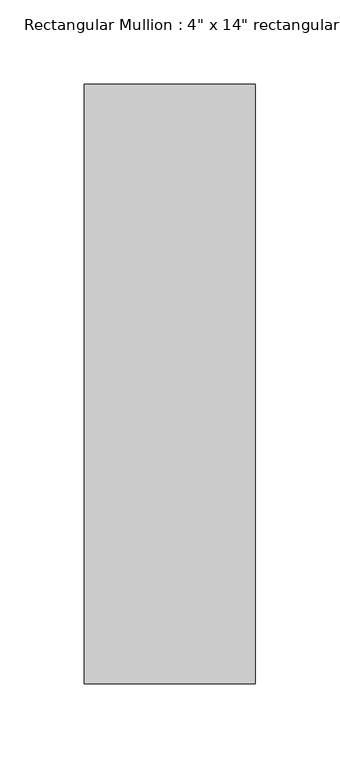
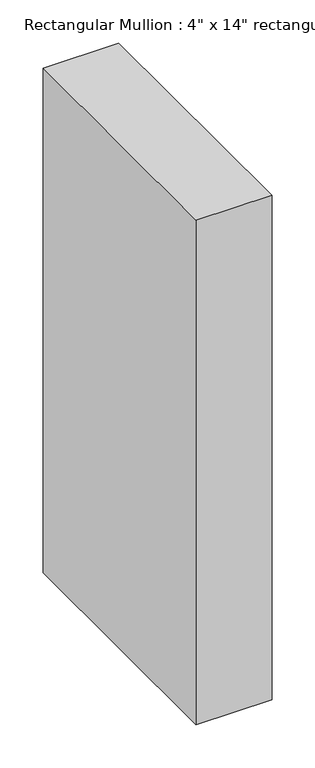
"""IFC4 building model written with IfcOpenShell, lengths in millimetres: member geometry."""

import ifcopenshell
import ifcopenshell.guid

model = None  # the IFC model being written
_history = None  # IfcOwnerHistory: only IFC2X3 demands one
_inside = {}  # id of a spatial element -> (the spatial element, [elements in it])
_under = {}  # id of a project, library or spatial element -> (it, [spatial elements below it])
_declared = {}  # id of a project -> (the project, [libraries it declares])
_typed = {}  # id of a type object -> (the type object, [elements of that type])
_made_of = {}  # id of a material, layer set ... -> (it, [elements and type objects made of it])


def new_model(schema):
    """Start an empty IFC model of exactly this schema.

    Asked for "IFC4X3", IfcOpenShell would pick the latest addendum, in which some entities
    have other attributes; the version numbers below select the first issue.
    IFC2X3 requires an IfcOwnerHistory on every rooted entity: one is made here for all.
    """
    global model, _history
    if schema == "IFC4X3":
        model = ifcopenshell.file(schema_version=(4, 3, 0, 0))
    else:
        model = ifcopenshell.file(schema=schema)
    _inside.clear()
    _under.clear()
    _declared.clear()
    _typed.clear()
    _made_of.clear()
    _history = None
    if model.schema == "IFC2X3":
        org = make("IfcOrganization", Name="unknown")
        user = make(
            "IfcPersonAndOrganization",
            ThePerson=make("IfcPerson", FamilyName="unknown"),
            TheOrganization=org,
        )
        app = make(
            "IfcApplication",
            ApplicationDeveloper=org,
            Version="unknown",
            ApplicationFullName="unknown",
            ApplicationIdentifier="unknown",
        )
        _history = make(
            "IfcOwnerHistory",
            OwningUser=user,
            OwningApplication=app,
            ChangeAction="ADDED",
            CreationDate=0,
        )
    return model


def make(cls, **values):
    """One entity of the class cls with the attributes given. An attribute that is None is left unset."""
    return model.create_entity(
        cls, **{name: value for name, value in values.items() if value is not None}
    )


def rooted(cls, **values):
    """An entity with a GlobalId (a new one), such as an element, a storey or a relation."""
    return make(cls, GlobalId=ifcopenshell.guid.new(), OwnerHistory=_history, **values)


def si_unit(unit_type, name, prefix=None):
    """IfcSIUnit, for example si_unit("LENGTHUNIT", "METRE", prefix="MILLI")."""
    return make("IfcSIUnit", UnitType=unit_type, Prefix=prefix, Name=name)


def assignment(units):
    """IfcUnitAssignment: the units of a project."""
    return None if units is None else make("IfcUnitAssignment", Units=units)


def point(xyz):
    """IfcCartesianPoint."""
    return None if xyz is None else make("IfcCartesianPoint", Coordinates=xyz)


def direction(xyz):
    """IfcDirection."""
    return None if xyz is None else make("IfcDirection", DirectionRatios=xyz)


def frame(location, z_axis=None, x_axis=None):
    """IfcAxis2Placement3D, a coordinate frame: its origin and axes. An axis left out is left unset."""
    return make(
        "IfcAxis2Placement3D",
        Location=point(location),
        Axis=direction(z_axis),
        RefDirection=direction(x_axis),
    )


def origin():
    """The frame at (0, 0, 0) with its axes left unset."""
    return frame((0.0, 0.0, 0.0))


def place(relative_to, where):
    """IfcLocalPlacement: puts the frame where relative to a parent placement (None: the world)."""
    return make(
        "IfcLocalPlacement", PlacementRelTo=relative_to, RelativePlacement=where
    )


def context(
    kind, dimensions, precision=None, world=None, true_north=None, identifier=None
):
    """IfcGeometricRepresentationContext, for example the 3D "Model" context."""
    return make(
        "IfcGeometricRepresentationContext",
        ContextIdentifier=identifier,
        ContextType=kind,
        CoordinateSpaceDimension=dimensions,
        Precision=precision,
        WorldCoordinateSystem=world,
        TrueNorth=true_north,
    )


def project(units=None, contexts=None):
    """IfcProject with its units and contexts."""
    return rooted(
        "IfcProject",
        Name="project",
        RepresentationContexts=contexts,
        UnitsInContext=assignment(units),
    )


def spatial(cls, under=None, at=None, **own):
    """A site, building, storey or space (cls), placed at a placement, below another one or the project."""
    s = rooted(cls, ObjectPlacement=at, **own)
    if under is not None:
        _under.setdefault(under.id(), (under, []))[1].append(s)
    return s


def polyline(points):
    """IfcPolyline through the points."""
    return make("IfcPolyline", Points=[point(p) for p in points])


def outline(outer, holes=None, kind="AREA"):
    """IfcArbitraryClosedProfileDef: a profile drawn as a closed curve; with holes, ...WithVoids."""
    if holes is None:
        return make("IfcArbitraryClosedProfileDef", ProfileType=kind, OuterCurve=outer)
    return make(
        "IfcArbitraryProfileDefWithVoids",
        ProfileType=kind,
        OuterCurve=outer,
        InnerCurves=holes,
    )


def extrude(swept, where, along, depth):
    """IfcExtrudedAreaSolid: the profile swept, set in the frame where, extruded along a direction by depth."""
    return make(
        "IfcExtrudedAreaSolid",
        SweptArea=swept,
        Position=where,
        ExtrudedDirection=direction(along),
        Depth=depth,
    )


def shape(context_of_items, identifier, shape_type, items):
    """IfcShapeRepresentation: the items that make up one representation, for example the "Body"."""
    return make(
        "IfcShapeRepresentation",
        ContextOfItems=context_of_items,
        RepresentationIdentifier=identifier,
        RepresentationType=shape_type,
        Items=items,
    )


def source(mapping_origin, context_of_items, identifier, shape_type, items):
    """IfcRepresentationMap: a shape defined once, which mapped items show again and again."""
    return make(
        "IfcRepresentationMap",
        MappingOrigin=mapping_origin,
        MappedRepresentation=shape(context_of_items, identifier, shape_type, items),
    )


def transform(
    local_origin,
    x_axis=None,
    y_axis=None,
    z_axis=None,
    scale=None,
    scale2=None,
    scale3=None,
    uniform=True,
):
    """IfcCartesianTransformationOperator3D, or its non-uniform kind. x_axis, y_axis, z_axis: its Axis1, 2, 3."""
    if uniform:
        return make(
            "IfcCartesianTransformationOperator3D",
            Axis1=direction(x_axis),
            Axis2=direction(y_axis),
            LocalOrigin=point(local_origin),
            Scale=scale,
            Axis3=direction(z_axis),
        )
    return make(
        "IfcCartesianTransformationOperator3DnonUniform",
        Axis1=direction(x_axis),
        Axis2=direction(y_axis),
        LocalOrigin=point(local_origin),
        Scale=scale,
        Axis3=direction(z_axis),
        Scale2=scale2,
        Scale3=scale3,
    )


def mapped(mapping_source, mapping_target):
    """IfcMappedItem: shows the shape of a source again, moved by a transform."""
    return make(
        "IfcMappedItem", MappingSource=mapping_source, MappingTarget=mapping_target
    )


def made_of(thing, what):
    """Note that an element or type object is made of a material, layer set ...; save() writes the relation."""
    if what is not None:
        _made_of.setdefault(what.id(), (what, []))[1].append(thing)
    return thing


def element(
    cls,
    number,
    at=None,
    inside=None,
    cuts=None,
    type_object=None,
    material=None,
    context=None,
    identifier="Body",
    shape_type=None,
    held_by="IfcProductDefinitionShape",
    body=None,
    shapes=None,
    **own,
):
    """One element of the class cls, such as IfcWall. Its Tag is "e" and its number.

    at: its placement. inside: the storey or other place that contains it. cuts: it is an
    opening in that element (IfcRelVoidsElement). A single representation is given by context,
    identifier, shape_type and body (its items); several are given by shapes. held_by: the class
    of the entity that holds the representations. save() writes the other relations.
    """
    e = rooted(cls, Tag="e%d" % number, ObjectPlacement=at, **own)
    if body is not None:
        shapes = [shape(context, identifier, shape_type, body)]
    if shapes is not None:
        e.Representation = make(held_by, Representations=shapes)
    if inside is not None:
        _inside.setdefault(inside.id(), (inside, []))[1].append(e)
    if cuts is not None:
        rooted(
            "IfcRelVoidsElement", RelatingBuildingElement=cuts, RelatedOpeningElement=e
        )
    if type_object is not None:
        _typed.setdefault(type_object.id(), (type_object, []))[1].append(e)
    return made_of(e, material)


def aggregate(whole, parts):
    """IfcRelAggregates: a whole, such as a stair, and the parts it consists of."""
    return rooted("IfcRelAggregates", RelatingObject=whole, RelatedObjects=parts)


def save(model, path):
    """Write the relations noted so far, then the file.

    IfcRelAggregates (storeys below a building ...), IfcRelContainedInSpatialStructure (elements
    in a storey), IfcRelDefinesByType, IfcRelAssociatesMaterial and IfcRelDeclares: one each for
    every whole, place, type object, material and project.
    """
    for whole, parts in _under.values():
        aggregate(whole, parts)
    for where, things in _inside.values():
        rooted(
            "IfcRelContainedInSpatialStructure",
            RelatedElements=things,
            RelatingStructure=where,
        )
    for kind, things in _typed.values():
        rooted("IfcRelDefinesByType", RelatedObjects=things, RelatingType=kind)
    for what, things in _made_of.values():
        rooted("IfcRelAssociatesMaterial", RelatedObjects=things, RelatingMaterial=what)
    for by, libraries in _declared.values():
        rooted("IfcRelDeclares", RelatingContext=by, RelatedDefinitions=libraries)
    model.write(path)


def member_2df1c4c8(model_context):
    return source(origin(), model_context, "Body", "SweptSolid", [
        extrude(outline(polyline([(50.8, 63.5), (50.8, -292.1), (-50.8, -292.1), (-50.8, 63.5), (50.8, 63.5)])), frame((0.0, 0.0, -714.375), z_axis=(0.0, 0.0, 1.0), x_axis=(1.0, 0.0, 0.0)), (0.0, 0.0, 1.0), 714.375),
    ])


if __name__ == "__main__":
    model = new_model("IFC4")
    model_context = context("Model", 3, world=origin())
    ifc_project = project(units=[si_unit("LENGTHUNIT", "METRE", prefix="MILLI")], contexts=[model_context])
    site = spatial("IfcSite", under=ifc_project)
    building = spatial("IfcBuilding", under=site)
    placement = place(None, origin())
    member_shape = member_2df1c4c8(model_context)
    element("IfcMember", 1, ObjectType="Rectangular Mullion : 4\" x 14\" rectangular", at=placement, inside=building, context=model_context, shape_type="MappedRepresentation", body=[
        mapped(member_shape, transform((0.0, 0.0, 0.0), x_axis=(1.0, 0.0, 0.0), y_axis=(0.0, 1.0, 0.0), z_axis=(0.0, 0.0, 1.0))),
    ])
    save(model, "model.ifc")
